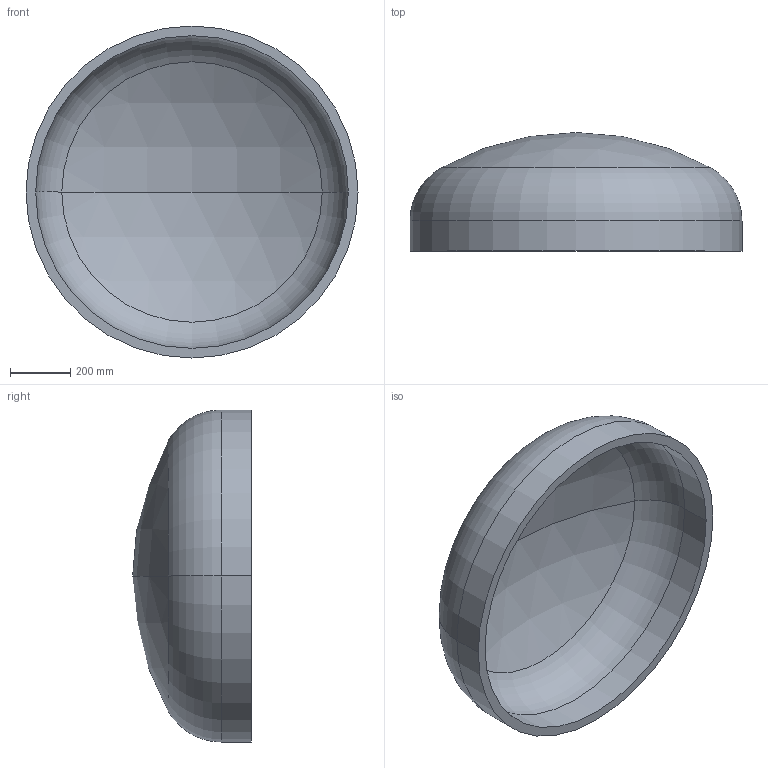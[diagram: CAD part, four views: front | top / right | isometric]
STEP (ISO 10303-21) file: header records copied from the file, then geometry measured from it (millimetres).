
FILE_DESCRIPTION (( 'STEP AP203' ), '1' );
FILE_NAME ('DIN 28013 Korbbogenform_-_Boden DIN 28013 - 1100 x 100 - I - s=32.step', '2016-07-01T09:05:42', ( '' ), ( '' ), 'SwSTEP 2.0', 'SolidWorks 2013', '' );
FILE_SCHEMA (( 'CONFIG_CONTROL_DESIGN' ));
Length unit declared in the file: millimetre
Products named in the file (1): DIN 28013 Korbbogenform_-_Boden DIN 28013 - 1100 x 100 - I - s=32
Bounding box: 1100 x 393.13 x 1100 mm (x, y, z)
Volume: 51312003.1 mm3; surface area: 3316511 mm2
Topology: 1 solids, 1 shells, 13 faces, 24 edges, 14 vertices
Faces by surface type: torus 4, cylinder 4, sphere 4, plane 1
Entity records: 407 total; most frequent: DIRECTION 72, CARTESIAN_POINT 52, ORIENTED_EDGE 48, AXIS2_PLACEMENT_3D 34, EDGE_CURVE 24, CIRCLE 20, EDGE_LOOP 14, VERTEX_POINT 14
